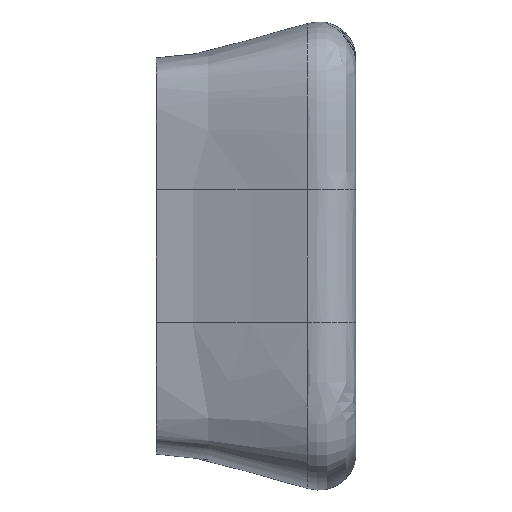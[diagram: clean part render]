
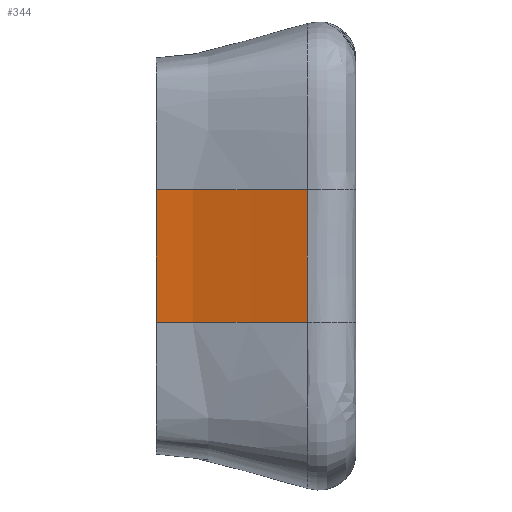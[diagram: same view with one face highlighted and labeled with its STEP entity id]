
A CAD part, front view. The second image highlights one B-rep face of the part: STEP entity #344.
In plain terms, the highlighted free-form (B-spline) face has degree [4, 1] with [5, 2] control points.
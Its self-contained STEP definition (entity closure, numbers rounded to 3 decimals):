
#20=(
BOUNDED_CURVE()
B_SPLINE_CURVE(4,(#4182,#4183,#4184,#4185,#4186),.UNSPECIFIED.,.F.,.F.)
B_SPLINE_CURVE_WITH_KNOTS((5,5),(-1.,-0.236),.UNSPECIFIED.)
CURVE()
GEOMETRIC_REPRESENTATION_ITEM()
RATIONAL_B_SPLINE_CURVE((1.,1.,1.,1.,1.))
REPRESENTATION_ITEM('')
);
#22=(
BOUNDED_CURVE()
B_SPLINE_CURVE(4,(#4315,#4316,#4317,#4318,#4319),.UNSPECIFIED.,.F.,.F.)
B_SPLINE_CURVE_WITH_KNOTS((5,5),(-1.,-0.236),.UNSPECIFIED.)
CURVE()
GEOMETRIC_REPRESENTATION_ITEM()
RATIONAL_B_SPLINE_CURVE((1.,1.,1.,1.,1.))
REPRESENTATION_ITEM('')
);
#26=(
BOUNDED_SURFACE()
B_SPLINE_SURFACE(4,1,((#4305,#4306),(#4307,#4308),(#4309,#4310),(#4311,
#4312),(#4313,#4314)),.UNSPECIFIED.,.F.,.F.,.F.)
B_SPLINE_SURFACE_WITH_KNOTS((5,5),(2,2),(-1.,0.),(0.,1.),
 .UNSPECIFIED.)
GEOMETRIC_REPRESENTATION_ITEM()
RATIONAL_B_SPLINE_SURFACE(((1.,1.),(1.,1.),(1.,1.),(1.,1.),(1.,1.)))
REPRESENTATION_ITEM('')
SURFACE()
);
#48=LINE('',#522,#57);
#57=VECTOR('',#393,10.);
#83=FACE_OUTER_BOUND('',#107,.T.);
#107=EDGE_LOOP('',(#308,#309,#310,#311));
#140=B_SPLINE_CURVE_WITH_KNOTS('',3,(#3914,#3915,#3916,#3917),
 .UNSPECIFIED.,.F.,.F.,(4,4),(0.,1.),
 .UNSPECIFIED.);
#155=VERTEX_POINT('',#492);
#156=VERTEX_POINT('',#521);
#161=VERTEX_POINT('',#1285);
#172=VERTEX_POINT('',#3753);
#188=EDGE_CURVE('',#155,#156,#48,.T.);
#215=EDGE_CURVE('',#172,#161,#140,.T.);
#220=EDGE_CURVE('',#155,#161,#20,.T.);
#222=EDGE_CURVE('',#156,#172,#22,.T.);
#308=ORIENTED_EDGE('',*,*,#215,.F.);
#309=ORIENTED_EDGE('',*,*,#222,.F.);
#310=ORIENTED_EDGE('',*,*,#188,.F.);
#311=ORIENTED_EDGE('',*,*,#220,.T.);
#344=ADVANCED_FACE('',(#83),#26,.F.);
#393=DIRECTION('',(0.,0.,1.));
#492=CARTESIAN_POINT('',(176.,45.1,154.9));
#521=CARTESIAN_POINT('',(176.,45.1,164.9));
#522=CARTESIAN_POINT('',(176.,45.1,164.9));
#1285=CARTESIAN_POINT('',(187.362,42.523,154.9));
#3753=CARTESIAN_POINT('',(187.362,42.523,164.9));
#3914=CARTESIAN_POINT('Ctrl Pts',(187.362,42.523,164.9));
#3915=CARTESIAN_POINT('Ctrl Pts',(187.362,42.523,161.567));
#3916=CARTESIAN_POINT('Ctrl Pts',(187.362,42.523,158.233));
#3917=CARTESIAN_POINT('Ctrl Pts',(187.362,42.523,154.9));
#4182=CARTESIAN_POINT('Ctrl Pts',(176.,45.1,154.9));
#4183=CARTESIAN_POINT('Ctrl Pts',(179.055,45.1,154.9));
#4184=CARTESIAN_POINT('Ctrl Pts',(181.819,44.225,154.9));
#4185=CARTESIAN_POINT('Ctrl Pts',(184.513,43.143,154.9));
#4186=CARTESIAN_POINT('Ctrl Pts',(187.362,42.523,154.9));
#4305=CARTESIAN_POINT('Ctrl Pts',(176.,45.1,164.9));
#4306=CARTESIAN_POINT('Ctrl Pts',(176.,45.1,154.9));
#4307=CARTESIAN_POINT('Ctrl Pts',(180.,45.1,164.9));
#4308=CARTESIAN_POINT('Ctrl Pts',(180.,45.1,154.9));
#4309=CARTESIAN_POINT('Ctrl Pts',(183.5,43.6,164.9));
#4310=CARTESIAN_POINT('Ctrl Pts',(183.5,43.6,154.9));
#4311=CARTESIAN_POINT('Ctrl Pts',(187.,42.1,164.9));
#4312=CARTESIAN_POINT('Ctrl Pts',(187.,42.1,154.9));
#4313=CARTESIAN_POINT('Ctrl Pts',(191.,42.1,164.9));
#4314=CARTESIAN_POINT('Ctrl Pts',(191.,42.1,154.9));
#4315=CARTESIAN_POINT('Ctrl Pts',(176.,45.1,164.9));
#4316=CARTESIAN_POINT('Ctrl Pts',(179.055,45.1,164.9));
#4317=CARTESIAN_POINT('Ctrl Pts',(181.819,44.225,164.9));
#4318=CARTESIAN_POINT('Ctrl Pts',(184.513,43.143,164.9));
#4319=CARTESIAN_POINT('Ctrl Pts',(187.362,42.523,164.9));
